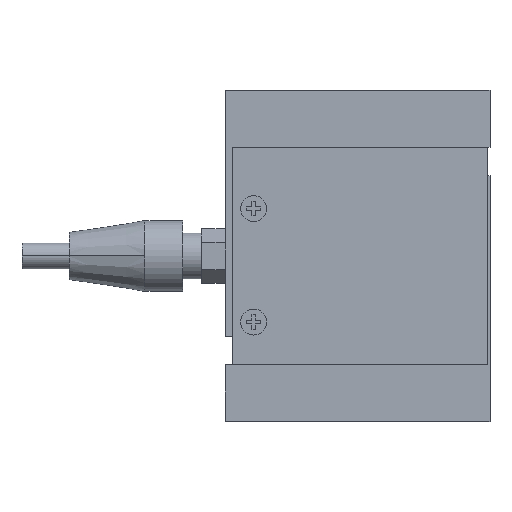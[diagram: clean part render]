
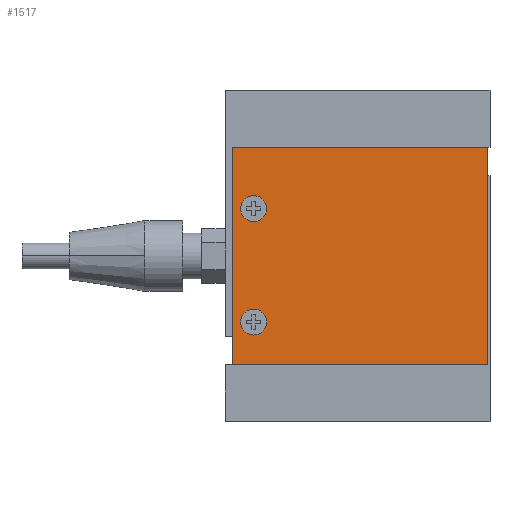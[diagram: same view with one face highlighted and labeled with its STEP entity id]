
A CAD part, top view. The second image highlights one B-rep face of the part: STEP entity #1517.
In plain terms, the highlighted planar face has unit normal (0, 0, 1).
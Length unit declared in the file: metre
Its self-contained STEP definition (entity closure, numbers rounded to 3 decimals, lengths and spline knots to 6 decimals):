
#150 = EDGE_LOOP ( 'NONE', ( #337, #534 ) ) ;
#225 = AXIS2_PLACEMENT_3D ( 'NONE', #2157, #2167, #2158 ) ;
#307 = ORIENTED_EDGE ( 'NONE', *, *, #2569, .T. ) ;
#337 = ORIENTED_EDGE ( 'NONE', *, *, #2574, .T. ) ;
#407 = EDGE_LOOP ( 'NONE', ( #3014, #2961, #307, #491 ) ) ;
#491 = ORIENTED_EDGE ( 'NONE', *, *, #2555, .T. ) ;
#501 = ORIENTED_EDGE ( 'NONE', *, *, #2550, .F. ) ;
#516 = ORIENTED_EDGE ( 'NONE', *, *, #2554, .F. ) ;
#534 = ORIENTED_EDGE ( 'NONE', *, *, #2572, .T. ) ;
#547 = EDGE_LOOP ( 'NONE', ( #516, #501 ) ) ;
#835 = AXIS2_PLACEMENT_3D ( 'NONE', #2469, #2470, #2471 ) ;
#837 = AXIS2_PLACEMENT_3D ( 'NONE', #2600, #2601, #2602 ) ;
#841 = AXIS2_PLACEMENT_3D ( 'NONE', #2639, #2640, #2641 ) ;
#842 = AXIS2_PLACEMENT_3D ( 'NONE', #2643, #2644, #2645 ) ;
#1517 = ADVANCED_FACE ( 'NONE', ( #1919, #1875, #1916 ), #2156, .T. ) ;
#1577 = VERTEX_POINT ( 'NONE', #2291 ) ;
#1875 = FACE_OUTER_BOUND ( 'NONE', #407, .T. ) ;
#1916 = FACE_BOUND ( 'NONE', #547, .T. ) ;
#1919 = FACE_BOUND ( 'NONE', #150, .T. ) ;
#1934 = CIRCLE ( 'NONE', #835, 0.00275 ) ;
#2156 = PLANE ( 'NONE',  #225 ) ;
#2157 = CARTESIAN_POINT ( 'NONE',  ( -0.044201, -0.022532, 0.0115 ) ) ;
#2158 = DIRECTION ( 'NONE',  ( 1., 0., 0. ) ) ;
#2167 = DIRECTION ( 'NONE',  ( 0., 0., 1. ) ) ;
#2291 = CARTESIAN_POINT ( 'NONE',  ( -0.035451, 0.022468, 0.0115 ) ) ;
#2469 = CARTESIAN_POINT ( 'NONE',  ( -0.038201, -0.001532, 0.0115 ) ) ;
#2470 = DIRECTION ( 'NONE',  ( 0., 0., 1. ) ) ;
#2471 = DIRECTION ( 'NONE',  ( 1., 0., 0. ) ) ;
#2474 = CARTESIAN_POINT ( 'NONE',  ( -0.042701, 0.035468, 0.0115 ) ) ;
#2476 = CIRCLE ( 'NONE', #837, 0.00275 ) ;
#2478 = LINE ( 'NONE', #2474, #2480 ) ;
#2480 = VECTOR ( 'NONE', #2594, 1. ) ;
#2504 = LINE ( 'NONE', #2623, #2506 ) ;
#2506 = VECTOR ( 'NONE', #2624, 1. ) ;
#2507 = LINE ( 'NONE', #2634, #2510 ) ;
#2509 = CIRCLE ( 'NONE', #841, 0.00275 ) ;
#2510 = VECTOR ( 'NONE', #2635, 1. ) ;
#2512 = CIRCLE ( 'NONE', #842, 0.00275 ) ;
#2523 = LINE ( 'NONE', #2659, #2526 ) ;
#2526 = VECTOR ( 'NONE', #2660, 1. ) ;
#2550 = EDGE_CURVE ( 'NONE', #2900, #3022, #1934, .T. ) ;
#2554 = EDGE_CURVE ( 'NONE', #3022, #2900, #2476, .T. ) ;
#2555 = EDGE_CURVE ( 'NONE', #2895, #3042, #2478, .T. ) ;
#2569 = EDGE_CURVE ( 'NONE', #2931, #2895, #2504, .T. ) ;
#2571 = EDGE_CURVE ( 'NONE', #3042, #2894, #2507, .T. ) ;
#2572 = EDGE_CURVE ( 'NONE', #2890, #1577, #2509, .T. ) ;
#2574 = EDGE_CURVE ( 'NONE', #1577, #2890, #2512, .T. ) ;
#2581 = EDGE_CURVE ( 'NONE', #2894, #2931, #2523, .T. ) ;
#2594 = DIRECTION ( 'NONE',  ( -1., 0., 0. ) ) ;
#2600 = CARTESIAN_POINT ( 'NONE',  ( -0.038201, -0.001532, 0.0115 ) ) ;
#2601 = DIRECTION ( 'NONE',  ( 0., 0., 1. ) ) ;
#2602 = DIRECTION ( 'NONE',  ( 1., 0., 0. ) ) ;
#2623 = CARTESIAN_POINT ( 'NONE',  ( 0.011299, 0.035468, 0.0115 ) ) ;
#2624 = DIRECTION ( 'NONE',  ( 0., 1., 0. ) ) ;
#2634 = CARTESIAN_POINT ( 'NONE',  ( -0.042701, 0.035468, 0.0115 ) ) ;
#2635 = DIRECTION ( 'NONE',  ( 0., -1., 0. ) ) ;
#2639 = CARTESIAN_POINT ( 'NONE',  ( -0.038201, 0.022468, 0.0115 ) ) ;
#2640 = DIRECTION ( 'NONE',  ( 0., 0., -1. ) ) ;
#2641 = DIRECTION ( 'NONE',  ( 1., 0., 0. ) ) ;
#2643 = CARTESIAN_POINT ( 'NONE',  ( -0.038201, 0.022468, 0.0115 ) ) ;
#2644 = DIRECTION ( 'NONE',  ( 0., 0., -1. ) ) ;
#2645 = DIRECTION ( 'NONE',  ( 1., 0., 0. ) ) ;
#2659 = CARTESIAN_POINT ( 'NONE',  ( -0.042701, -0.010532, 0.0115 ) ) ;
#2660 = DIRECTION ( 'NONE',  ( 1., 0., 0. ) ) ;
#2724 = CARTESIAN_POINT ( 'NONE',  ( -0.040951, 0.022468, 0.0115 ) ) ;
#2728 = CARTESIAN_POINT ( 'NONE',  ( -0.042701, -0.010532, 0.0115 ) ) ;
#2729 = CARTESIAN_POINT ( 'NONE',  ( 0.011299, 0.035468, 0.0115 ) ) ;
#2734 = CARTESIAN_POINT ( 'NONE',  ( -0.040951, -0.001532, 0.0115 ) ) ;
#2741 = CARTESIAN_POINT ( 'NONE',  ( 0.011299, -0.010532, 0.0115 ) ) ;
#2757 = CARTESIAN_POINT ( 'NONE',  ( -0.035451, -0.001532, 0.0115 ) ) ;
#2777 = CARTESIAN_POINT ( 'NONE',  ( -0.042701, 0.035468, 0.0115 ) ) ;
#2890 = VERTEX_POINT ( 'NONE', #2724 ) ;
#2894 = VERTEX_POINT ( 'NONE', #2728 ) ;
#2895 = VERTEX_POINT ( 'NONE', #2729 ) ;
#2900 = VERTEX_POINT ( 'NONE', #2734 ) ;
#2931 = VERTEX_POINT ( 'NONE', #2741 ) ;
#2961 = ORIENTED_EDGE ( 'NONE', *, *, #2581, .T. ) ;
#3014 = ORIENTED_EDGE ( 'NONE', *, *, #2571, .T. ) ;
#3022 = VERTEX_POINT ( 'NONE', #2757 ) ;
#3042 = VERTEX_POINT ( 'NONE', #2777 ) ;
